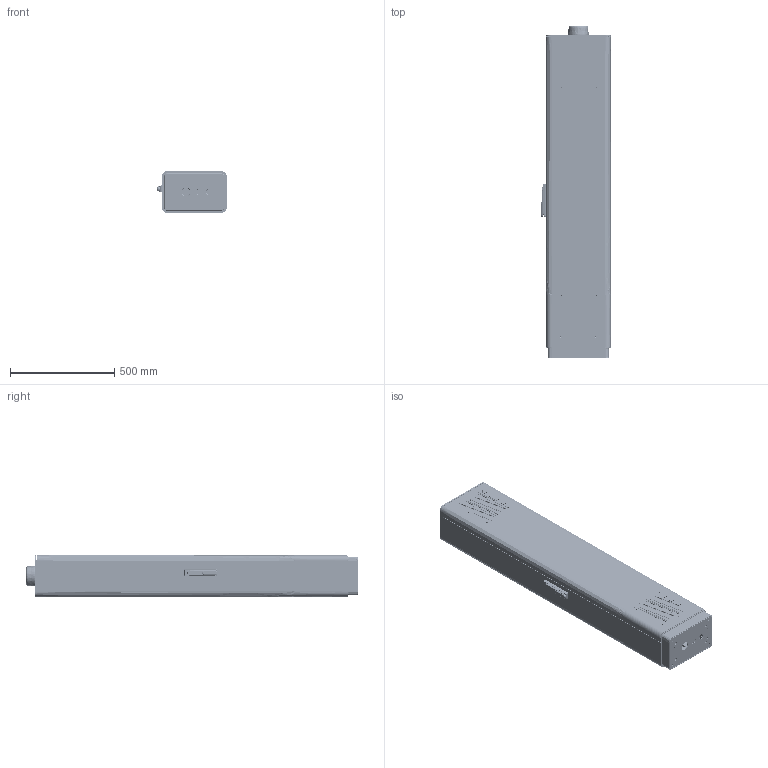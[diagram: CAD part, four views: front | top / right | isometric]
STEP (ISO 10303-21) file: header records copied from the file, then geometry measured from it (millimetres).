
FILE_DESCRIPTION((''),'2;1');
FILE_NAME('AUT61471182_ASM','2026-06-02T15:07:41',('A24407'),(''),'CREO PARAMETRIC BY PTC INC, 2018100','CREO PARAMETRIC BY PTC INC, 2018100','');
FILE_SCHEMA(('CONFIG_CONTROL_DESIGN','GEOMETRIC_VALIDATION_PROPERTIES_MIM'));
Products named in the file (160): AUT81170902; AUT81193328_1; AUT81193328_4; AUT81193328_3; AUT81193328_ASM; AUT81192778; AUT81181952_1; AUT81471318; AUT61471175_ASM; MS83920180227_1_20001_1_WG1; HM4X8_20001_1_WG1; MS846-F_1_20001_1_WG1; MS807-1_1_200_1_WG1; TC01-1-SOLID1_1_200_1-35482; 5SJ-L2D0140-0060_ASM-1_8S-239_2; TC01-1-SOLID1_1_200_1-39072; 5SJ-L2D0140-0060_ASM-1_8S-247_2; 5SJ-L2D0140-0060_ASM-1_8S-259_2; 5SJ-L2D0140-0060_ASM-1_8S-270_2; 5SJ-L2D0140-0060_ASM-1_8S-575_2; 5SJ-L2D0140-0060_ASM-1_8S-576_2; 5SJ-L2D0140-0060_ASM-1_8S-581_2; 5SJ-L2D0140-0060_ASM-1_8S-590_2; 5SJ-L2D0140-0060_ASM-1_8S-897_2; TC01-1-SOLID1_1_200_1-55143; 5SJ-L2D0140-0060_ASM-1_8S-910_2; TC01_1_20001_ASM_1_ASM; _C4X9X0_8_1_20001_1_WG1; MS830_1_20001_1_WG1; M5X16_1_20001_1_WG1; MS840-1-F_1_200_1-69694_WG1; 15X1_9_1_20001_1_WG1; MS840-F_1_200_1_WG1; MS840-1-F_1_20001_ASM_1_WG1_ASM; M4_20001_1_WG1; MS840-1-F_1_200_1-95676_WG1; MS840-1_1_20001_1_WG1; MS840-1___1_20001_1_WG1; MS840-1-F_1_20003_ASM_1_WG1_ASM; 8SJ-MS840-15-061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
Assembly tree (321 placements, depth 7):
  AUT61471182_ASM
    AUT61471201_ASM
      AUT61471175_ASM
        AUT81170902
        AUT81193328_ASM
          AUT81193328_1
          AUT81193328_4
          AUT81193328_3
        AUT81192778
        AUT81181952_1
        AUT81471318  x15
      AUT61471195_ASM
        MS840-1-F_1_30001_ASM_1_WG1_ASM
          MS840-1-F_1_20001_ASM_1_WG1_ASM
            MS83920180227_1_20001_1_WG1
            HM4X8_20001_1_WG1
            MS846-F_1_20001_1_WG1
            MS807-1_1_200_1_WG1
            TC01_1_20001_ASM_1_ASM
              TC01-1-SOLID1_1_200_1-35482
              5SJ-L2D0140-0060_ASM-1_8S-239_2
              TC01-1-SOLID1_1_200_1-39072
              5SJ-L2D0140-0060_ASM-1_8S-247_2
              5SJ-L2D0140-0060_ASM-1_8S-259_2
              5SJ-L2D0140-0060_ASM-1_8S-270_2
              5SJ-L2D0140-0060_ASM-1_8S-575_2
              5SJ-L2D0140-0060_ASM-1_8S-576_2
              5SJ-L2D0140-0060_ASM-1_8S-581_2
              5SJ-L2D0140-0060_ASM-1_8S-590_2
              5SJ-L2D0140-0060_ASM-1_8S-897_2
              TC01-1-SOLID1_1_200_1-55143
              5SJ-L2D0140-0060_ASM-1_8S-910_2
            _C4X9X0_8_1_20001_1_WG1
            MS830_1_20001_1_WG1
            M5X16_1_20001_1_WG1
            MS840-1-F_1_200_1-69694_WG1
            15X1_9_1_20001_1_WG1
            MS840-F_1_200_1_WG1
          MS840-1-F_1_20003_ASM_1_WG1_ASM
            M4_20001_1_WG1  x2
            MS840-1-F_1_200_1-95676_WG1
            MS840-1_1_20001_1_WG1  x2
            MS840-1___1_20001_1_WG1
          8SJ-MS840-15-061
          5SJ-MB01-1D-0040_KAIKOUXIAO_ASM
            8SJ-MS831-0110_1  x2
            8SJ-MS820-0390_1
            14X1_90001_1
            8SJ-MS828-0100_1
            8SJ-MS820-0150_1
            M5X80001_1
            5SJ-MS840-15-0161_ASM
              3000_1
              2-90394000_1
            5SJ-MS840-15-0160_ASM
              200_1
              2-19118000_1
            KAIKOUXIAO  x2
        AUT61471194_ASM
          AUT81219028_ASM
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Bounding box: 332.9 x 1592 x 200 mm (x, y, z)
Volume: 11778312.6 mm3; surface area: 7236237.2 mm2
Topology: 402 solids, 402 shells, 19834 faces, 50962 edges, 31980 vertices
Faces by surface type: plane 10192, cylinder 7416, cone 1179, bspline 392, torus 327, sphere 221, extrusion 105, revolution 2
Entity records: 420374 total; most frequent: CARTESIAN_POINT 94078, DIRECTION 55776, ORIENTED_EDGE 54758, EDGE_CURVE 27379, AXIS2_PLACEMENT_3D 19539, PRESENTATION_STYLE_ASSIGNMENT 17626, VERTEX_POINT 17534, STYLED_ITEM 17435
